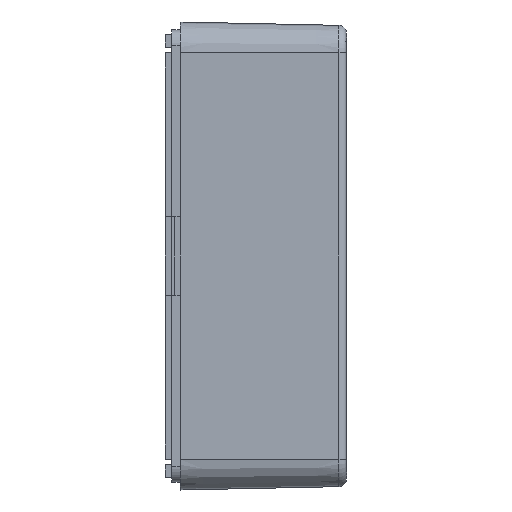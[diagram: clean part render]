
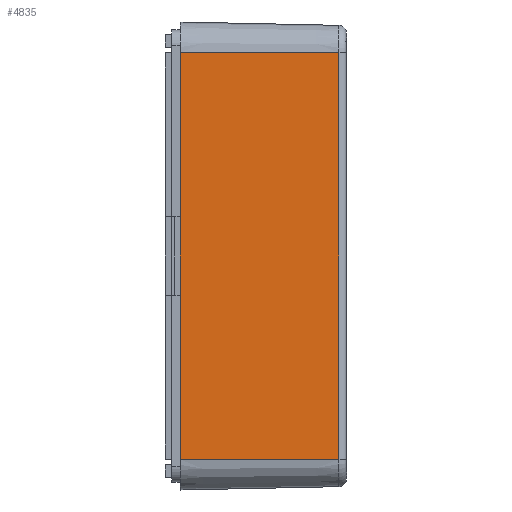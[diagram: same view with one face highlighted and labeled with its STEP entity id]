
A CAD part, left-side view. The second image highlights one B-rep face of the part: STEP entity #4835.
In plain terms, the highlighted planar face has unit normal (-1, -0.021, 0).
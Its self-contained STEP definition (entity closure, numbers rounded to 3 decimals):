
#17 = ORIENTED_EDGE ( 'NONE', *, *, #5519, .T. ) ;
#758 = EDGE_LOOP ( 'NONE', ( #2861, #17, #4025, #2927 ) ) ;
#1027 = CARTESIAN_POINT ( 'NONE',  ( -65.046, 0.979, 26.3 ) ) ;
#1053 = VERTEX_POINT ( 'NONE', #2290 ) ;
#1254 = LINE ( 'NONE', #4554, #4119 ) ;
#1570 = FACE_OUTER_BOUND ( 'NONE', #758, .T. ) ;
#1576 = VERTEX_POINT ( 'NONE', #1027 ) ;
#1606 = CARTESIAN_POINT ( 'NONE',  ( -65.025, 0., -26.3 ) ) ;
#1838 = AXIS2_PLACEMENT_3D ( 'NONE', #2280, #3593, #8257 ) ;
#2092 = LINE ( 'NONE', #2354, #8532 ) ;
#2280 = CARTESIAN_POINT ( 'NONE',  ( -65.025, 0., -26.3 ) ) ;
#2290 = CARTESIAN_POINT ( 'NONE',  ( -65.046, 0.979, -26.3 ) ) ;
#2354 = CARTESIAN_POINT ( 'NONE',  ( -65.475, 21.5, 26.3 ) ) ;
#2497 = EDGE_CURVE ( 'NONE', #7179, #7836, #2092, .T. ) ;
#2861 = ORIENTED_EDGE ( 'NONE', *, *, #6293, .T. ) ;
#2927 = ORIENTED_EDGE ( 'NONE', *, *, #2497, .F. ) ;
#3286 = EDGE_CURVE ( 'NONE', #7836, #1576, #6747, .T. ) ;
#3593 = DIRECTION ( 'NONE',  ( -1., -0.021, 0. ) ) ;
#3723 = DIRECTION ( 'NONE',  ( 0.021, -1., 0. ) ) ;
#4025 = ORIENTED_EDGE ( 'NONE', *, *, #3286, .F. ) ;
#4119 = VECTOR ( 'NONE', #6533, 1000. ) ;
#4244 = DIRECTION ( 'NONE',  ( 0.021, -1., 0. ) ) ;
#4554 = CARTESIAN_POINT ( 'NONE',  ( -65.046, 0.979, 26.3 ) ) ;
#4835 = ADVANCED_FACE ( 'NONE', ( #1570 ), #6173, .T. ) ;
#5519 = EDGE_CURVE ( 'NONE', #1053, #1576, #1254, .T. ) ;
#5803 = VECTOR ( 'NONE', #4244, 1000. ) ;
#5953 = CARTESIAN_POINT ( 'NONE',  ( -65.475, 21.5, 26.3 ) ) ;
#6173 = PLANE ( 'NONE',  #1838 ) ;
#6293 = EDGE_CURVE ( 'NONE', #7179, #1053, #7597, .T. ) ;
#6533 = DIRECTION ( 'NONE',  ( 0., 0., 1. ) ) ;
#6583 = CARTESIAN_POINT ( 'NONE',  ( -65.475, 21.5, -26.3 ) ) ;
#6747 = LINE ( 'NONE', #7706, #6977 ) ;
#6942 = DIRECTION ( 'NONE',  ( 0., 0., 1. ) ) ;
#6977 = VECTOR ( 'NONE', #3723, 1000. ) ;
#7179 = VERTEX_POINT ( 'NONE', #6583 ) ;
#7597 = LINE ( 'NONE', #1606, #5803 ) ;
#7706 = CARTESIAN_POINT ( 'NONE',  ( -65.025, 0., 26.3 ) ) ;
#7836 = VERTEX_POINT ( 'NONE', #5953 ) ;
#8257 = DIRECTION ( 'NONE',  ( 0.021, -1., 0. ) ) ;
#8532 = VECTOR ( 'NONE', #6942, 1000. ) ;
